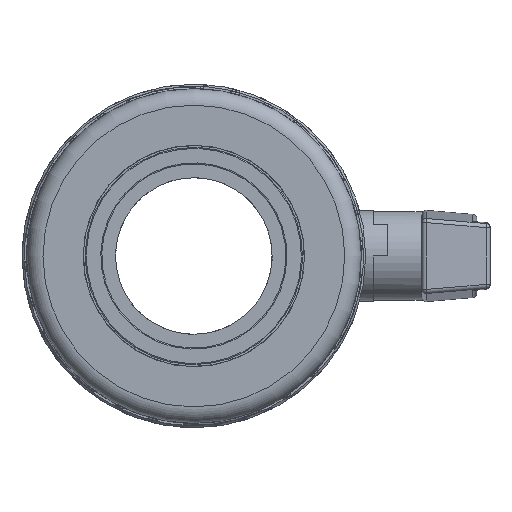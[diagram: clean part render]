
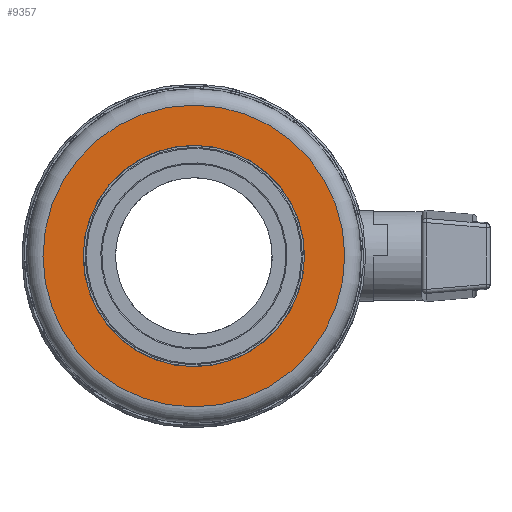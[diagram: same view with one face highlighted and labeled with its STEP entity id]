
A CAD part, front view. The second image highlights one B-rep face of the part: STEP entity #9357.
In plain terms, the highlighted planar face has unit normal (0, -1, 0).
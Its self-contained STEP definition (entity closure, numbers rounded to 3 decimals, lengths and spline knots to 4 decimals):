
#1816=FACE_BOUND('',#2651,.T.);
#2082=FACE_OUTER_BOUND('',#2650,.T.);
#2650=EDGE_LOOP('',(#6612));
#2651=EDGE_LOOP('',(#6613));
#3275=CIRCLE('',#10009,7.375);
#3276=CIRCLE('',#10010,5.41);
#3882=VERTEX_POINT('',#36064);
#3883=VERTEX_POINT('',#36066);
#4915=EDGE_CURVE('',#3882,#3882,#3275,.T.);
#4916=EDGE_CURVE('',#3883,#3883,#3276,.T.);
#6612=ORIENTED_EDGE('',*,*,#4915,.F.);
#6613=ORIENTED_EDGE('',*,*,#4916,.T.);
#8472=PLANE('',#10008);
#9357=ADVANCED_FACE('',(#2082,#1816),#8472,.T.);
#10008=AXIS2_PLACEMENT_3D('',#36063,#11394,#11395);
#10009=AXIS2_PLACEMENT_3D('',#36065,#11396,#11397);
#10010=AXIS2_PLACEMENT_3D('',#36067,#11398,#11399);
#11394=DIRECTION('center_axis',(0.,-1.,0.));
#11395=DIRECTION('ref_axis',(0.341,0.,0.94));
#11396=DIRECTION('center_axis',(0.,1.,0.));
#11397=DIRECTION('ref_axis',(-0.94,0.,0.341));
#11398=DIRECTION('center_axis',(0.,1.,0.));
#11399=DIRECTION('ref_axis',(-0.94,0.,0.341));
#36063=CARTESIAN_POINT('Origin',(6.9341,-8.67,-2.5117));
#36064=CARTESIAN_POINT('',(6.9341,-8.67,-2.5117));
#36065=CARTESIAN_POINT('Origin',(0.,-8.67,0.));
#36066=CARTESIAN_POINT('',(5.0866,-8.67,-1.8425));
#36067=CARTESIAN_POINT('Origin',(0.,-8.67,0.));
